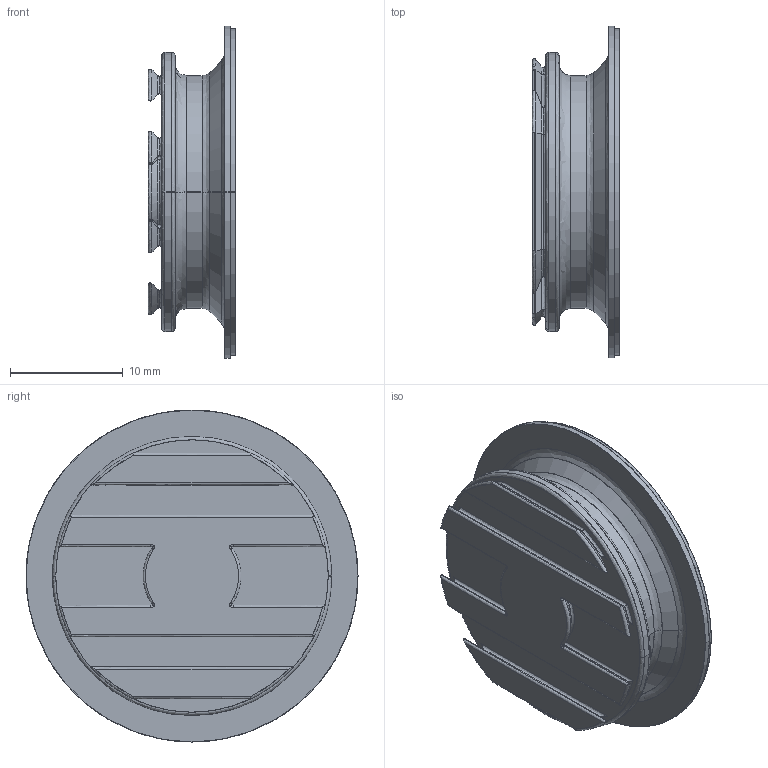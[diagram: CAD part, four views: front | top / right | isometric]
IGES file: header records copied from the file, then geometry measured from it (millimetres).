
Start section: SolidWorks IGES file using analytic representation for surfaces
Global section: file name: D:\Blender\Clients\FAS - Fastmount\FAS000 - General\Customer files\Clip Geometry\VL - Very Low Profile Range\IGES\VL-F3.IGS; native system: SolidWorks 2018; preprocessor: SolidWorks 2018; author: Evan; date: 190204.094907; units: millimetre
Bounding box: 7.8 x 29.5 x 29.5 mm (x, y, z)
Surface area: 2611.4 mm2 (no closed solid volume)
Topology: 0 solids, 0 shells, 401 faces, 3231 edges, 3227 vertices
Faces by surface type: bspline 340, revolution 61
